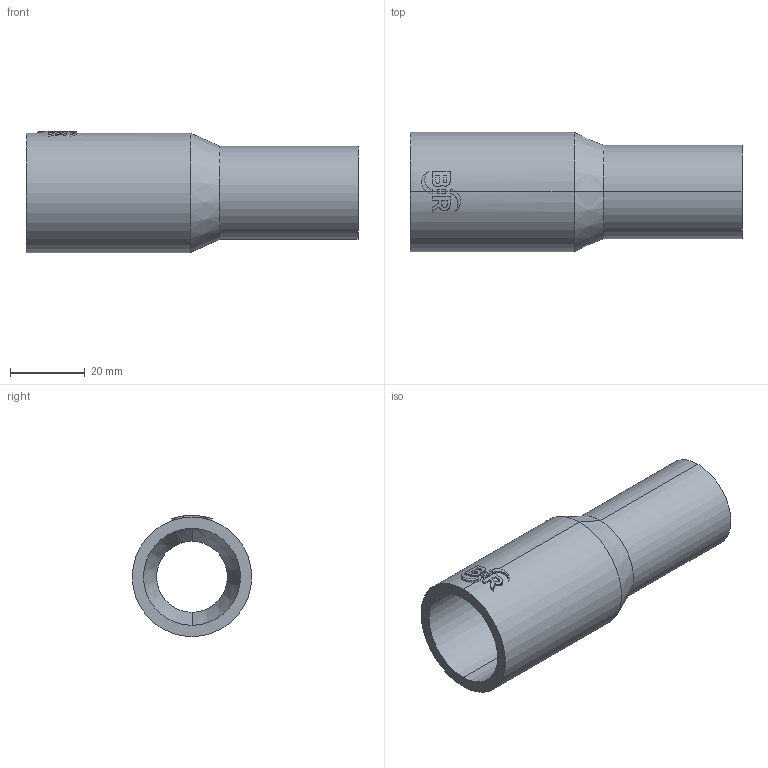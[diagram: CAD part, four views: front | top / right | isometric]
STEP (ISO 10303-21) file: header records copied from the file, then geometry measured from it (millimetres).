
FILE_DESCRIPTION (( 'STEP AP214' ), '1' );
FILE_NAME ('2323080715.STEP', '2018-07-20T10:48:29', ( '' ), ( '' ), 'SwSTEP 2.0', 'SolidWorks 2017', '' );
FILE_SCHEMA (( 'AUTOMOTIVE_DESIGN' ));
Length unit declared in the file: millimetre
Products named in the file (1): 2323080715
Bounding box: 89 x 32 x 32.47 mm (x, y, z)
Volume: 21794.5 mm3; surface area: 15041.4 mm2
Topology: 1 solids, 1 shells, 63 faces, 160 edges, 104 vertices
Faces by surface type: cylinder 31, plane 28, cone 4
Entity records: 2917 total; most frequent: CARTESIAN_POINT 708, ORIENTED_EDGE 320, DIRECTION 296, EDGE_CURVE 160, AXIS2_PLACEMENT_3D 112, VERTEX_POINT 104, VECTOR 72, LINE 72
